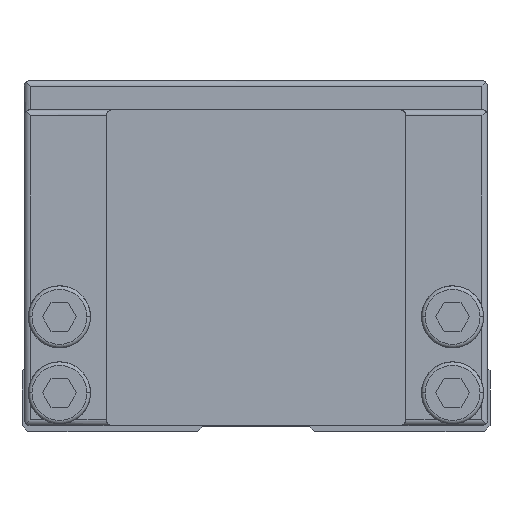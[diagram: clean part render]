
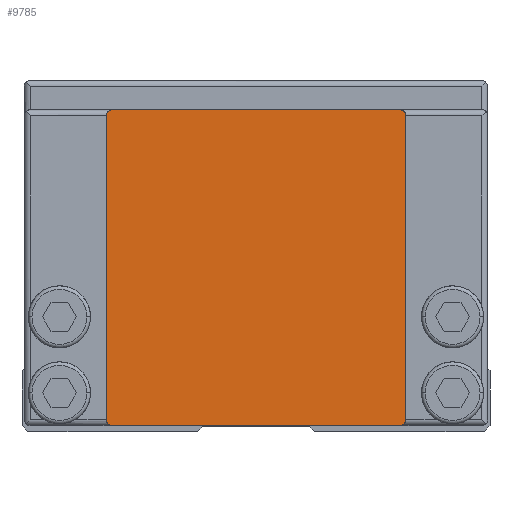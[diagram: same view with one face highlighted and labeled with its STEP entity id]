
A CAD part, front view. The second image highlights one B-rep face of the part: STEP entity #9785.
In plain terms, the highlighted planar face has unit normal (0, -1, 0).
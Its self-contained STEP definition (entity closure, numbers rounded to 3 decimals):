
#4867=VERTEX_POINT('',#12987);
#5215=EDGE_CURVE('',#7923,#6273,#13383,.T.);
#5795=VERTEX_POINT('',#14028);
#5899=VERTEX_POINT('',#14143);
#5937=EDGE_CURVE('',#6273,#11439,#14185,.T.);
#6183=EDGE_CURVE('',#4867,#8509,#14452,.T.);
#6273=VERTEX_POINT('',#14550);
#7041=EDGE_CURVE('',#11439,#5795,#15383,.T.);
#7923=VERTEX_POINT('',#16370);
#8403=EDGE_CURVE('',#5899,#7923,#16896,.T.);
#8509=VERTEX_POINT('',#17010);
#9301=EDGE_CURVE('',#5795,#9979,#17883,.T.);
#9785=ADVANCED_FACE('',(#18428),#18429,.T.);
#9979=VERTEX_POINT('',#18645);
#10059=EDGE_CURVE('',#9979,#4867,#18734,.T.);
#10255=EDGE_CURVE('',#8509,#5899,#18945,.T.);
#11439=VERTEX_POINT('',#20278);
#12987=CARTESIAN_POINT('',(12.8,0.0,27.0));
#13383=CIRCLE('',#22883,0.5);
#14028=CARTESIAN_POINT('',(-12.3,0.0,27.5));
#14143=CARTESIAN_POINT('',(12.3,0.0,0.5));
#14185=LINE('',#23990,#23991);
#14452=LINE('',#24381,#24382);
#14550=CARTESIAN_POINT('',(-12.8,0.0,1.0));
#15383=CIRCLE('',#25749,0.5);
#16370=CARTESIAN_POINT('',(-12.3,0.0,0.5));
#16896=LINE('',#27968,#27969);
#17010=CARTESIAN_POINT('',(12.8,0.0,1.0));
#17883=LINE('',#29401,#29402);
#18428=FACE_OUTER_BOUND('',#30174,.T.);
#18429=PLANE('',#30175);
#18645=CARTESIAN_POINT('',(12.3,0.0,27.5));
#18734=CIRCLE('',#30577,0.5);
#18945=CIRCLE('',#30921,0.5);
#20278=CARTESIAN_POINT('',(-12.8,0.0,27.0));
#22883=AXIS2_PLACEMENT_3D('',#35422,#35423,#35424);
#23990=CARTESIAN_POINT('',(-12.8,0.0,27.0));
#23991=VECTOR('',#36391,1.0);
#24381=CARTESIAN_POINT('',(12.8,0.0,1.0));
#24382=VECTOR('',#36660,1.0);
#25749=AXIS2_PLACEMENT_3D('',#37609,#37610,#37611);
#27968=CARTESIAN_POINT('',(-12.3,0.0,0.5));
#27969=VECTOR('',#39336,1.0);
#29401=CARTESIAN_POINT('',(12.3,0.0,27.5));
#29402=VECTOR('',#40437,1.0);
#30174=EDGE_LOOP('',(#41029,#41030,#41031,#41032,#41033,#41034,#41035,#41036));
#30175=AXIS2_PLACEMENT_3D('',#41037,#41038,#41039);
#30577=AXIS2_PLACEMENT_3D('',#41427,#41428,#41429);
#30921=AXIS2_PLACEMENT_3D('',#41668,#41669,#41670);
#35422=CARTESIAN_POINT('',(-12.3,0.0,1.));
#35423=DIRECTION('',(0.0,1.0,-0.0));
#35424=DIRECTION('',(-1.0,0.0,0.));
#36391=DIRECTION('',(0.0,0.0,1.0));
#36660=DIRECTION('',(-0.0,0.0,-1.0));
#37609=CARTESIAN_POINT('',(-12.3,0.0,27.0));
#37610=DIRECTION('',(0.0,1.0,-0.0));
#37611=DIRECTION('',(0.,0.0,1.0));
#39336=DIRECTION('',(-1.0,0.0,-0.0));
#40437=DIRECTION('',(1.0,0.0,0.0));
#41029=ORIENTED_EDGE('',*,*,#5937,.F.);
#41030=ORIENTED_EDGE('',*,*,#5215,.F.);
#41031=ORIENTED_EDGE('',*,*,#8403,.F.);
#41032=ORIENTED_EDGE('',*,*,#10255,.F.);
#41033=ORIENTED_EDGE('',*,*,#6183,.F.);
#41034=ORIENTED_EDGE('',*,*,#10059,.F.);
#41035=ORIENTED_EDGE('',*,*,#9301,.F.);
#41036=ORIENTED_EDGE('',*,*,#7041,.F.);
#41037=CARTESIAN_POINT('',(0.,0.0,14.0));
#41038=DIRECTION('',(0.0,-1.0,0.0));
#41039=DIRECTION('',(1.0,0.0,0.0));
#41427=CARTESIAN_POINT('',(12.3,0.0,27.0));
#41428=DIRECTION('',(-0.0,1.0,0.0));
#41429=DIRECTION('',(1.0,0.0,0.));
#41668=CARTESIAN_POINT('',(12.3,0.0,1.));
#41669=DIRECTION('',(-0.0,1.0,0.0));
#41670=DIRECTION('',(0.0,0.0,-1.0));
